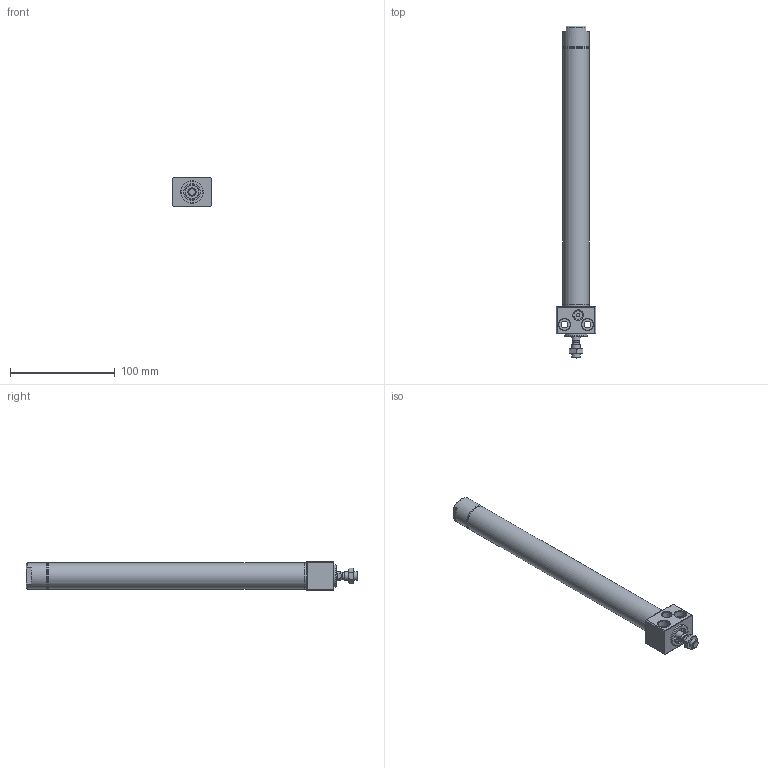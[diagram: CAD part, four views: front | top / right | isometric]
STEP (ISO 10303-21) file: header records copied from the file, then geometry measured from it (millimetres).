
FILE_DESCRIPTION((''),'2;1');
FILE_NAME('I:\3D電子目錄\氣缸\DBS\DBS\DBS20x200.stp','2007-10-08T08:30:15',('Administrator'),(''),'Autodesk Inventor 2008','Autodesk Inventor 2008','');
FILE_SCHEMA(('AUTOMOTIVE_DESIGN { 1 0 10303 214 1 1 1 1 }'));
Length unit declared in the file: millimetre
Products named in the file (1): DBS20x200
Bounding box: 38 x 317.6 x 28 mm (x, y, z)
Volume: 91197.2 mm3; surface area: 55272.7 mm2
Topology: 6 solids, 6 shells, 165 faces, 325 edges, 197 vertices
Faces by surface type: plane 73, cone 41, cylinder 36, bspline 12, torus 3
Full cylindrical faces by diameter (mm): 3 x1, 5 x1, 6 x3, 8 x3, 8.5 x1, 10 x1, 10.5 x2, 12 x3, 14.5 x2, 16 x2, 17 x1, 18 x2, 20 x1, 20.2 x2, 22 x1, 22.2 x6, 25 x4
Entity records: 4012 total; most frequent: CARTESIAN_POINT 924, DIRECTION 650, ORIENTED_EDGE 486, AXIS2_PLACEMENT_3D 287, EDGE_LOOP 282, EDGE_CURVE 243, VERTEX_POINT 189, FACE_OUTER_BOUND 165
